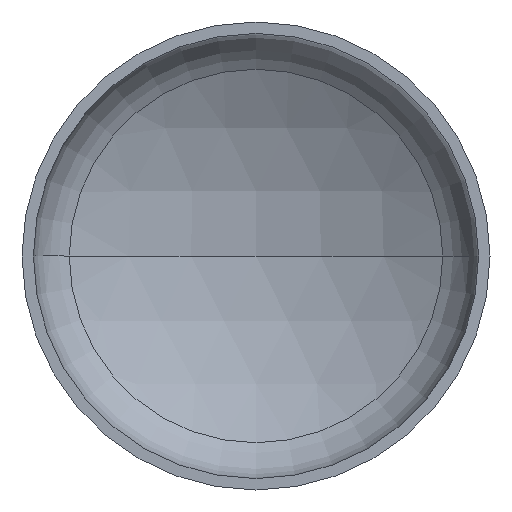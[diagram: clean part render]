
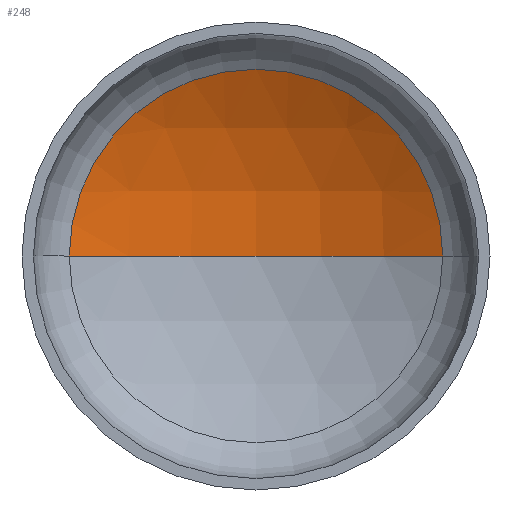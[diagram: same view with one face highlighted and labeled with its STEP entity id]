
A CAD part, front view. The second image highlights one B-rep face of the part: STEP entity #248.
In plain terms, the highlighted spherical face has radius 1440 mm.
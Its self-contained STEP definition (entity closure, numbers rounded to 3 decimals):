
#7 = VERTEX_POINT ( 'NONE', #208 ) ;
#34 = AXIS2_PLACEMENT_3D ( 'NONE', #185, #215, #217 ) ;
#40 = AXIS2_PLACEMENT_3D ( 'NONE', #282, #82, #298 ) ;
#41 = AXIS2_PLACEMENT_3D ( 'NONE', #370, #241, #395 ) ;
#46 = AXIS2_PLACEMENT_3D ( 'NONE', #136, #322, #183 ) ;
#55 = VERTEX_POINT ( 'NONE', #207 ) ;
#62 = ORIENTED_EDGE ( 'NONE', *, *, #218, .T. ) ;
#76 = ORIENTED_EDGE ( 'NONE', *, *, #224, .F. ) ;
#82 = DIRECTION ( 'NONE',  ( 0., 0., 1. ) ) ;
#115 = VERTEX_POINT ( 'NONE', #343 ) ;
#136 = CARTESIAN_POINT ( 'NONE',  ( 0., 378.361, 0. ) ) ;
#148 = EDGE_LOOP ( 'NONE', ( #76, #62, #328 ) ) ;
#183 = DIRECTION ( 'NONE',  ( 1., 0., 0. ) ) ;
#185 = CARTESIAN_POINT ( 'NONE',  ( 0., -869.784, 0. ) ) ;
#204 = EDGE_CURVE ( 'NONE', #55, #115, #408, .T. ) ;
#207 = CARTESIAN_POINT ( 'NONE',  ( 718.146, 378.361, 0. ) ) ;
#208 = CARTESIAN_POINT ( 'NONE',  ( 0., 570.216, 0. ) ) ;
#215 = DIRECTION ( 'NONE',  ( 0., 0., -1. ) ) ;
#217 = DIRECTION ( 'NONE',  ( -1., 0., 0. ) ) ;
#218 = EDGE_CURVE ( 'NONE', #7, #55, #356, .T. ) ;
#224 = EDGE_CURVE ( 'NONE', #7, #115, #347, .T. ) ;
#241 = DIRECTION ( 'NONE',  ( 0., 0., -1. ) ) ;
#248 = ADVANCED_FACE ( 'NONE', ( #288 ), #405, .F. ) ;
#282 = CARTESIAN_POINT ( 'NONE',  ( 0., -869.784, 0. ) ) ;
#288 = FACE_OUTER_BOUND ( 'NONE', #148, .T. ) ;
#298 = DIRECTION ( 'NONE',  ( 1., 0., 0. ) ) ;
#322 = DIRECTION ( 'NONE',  ( 0., -1., 0. ) ) ;
#328 = ORIENTED_EDGE ( 'NONE', *, *, #204, .T. ) ;
#343 = CARTESIAN_POINT ( 'NONE',  ( -718.146, 378.361, 0. ) ) ;
#347 = CIRCLE ( 'NONE', #40, 1440. ) ;
#356 = CIRCLE ( 'NONE', #41, 1440. ) ;
#370 = CARTESIAN_POINT ( 'NONE',  ( 0., -869.784, 0. ) ) ;
#395 = DIRECTION ( 'NONE',  ( -1., 0., 0. ) ) ;
#405 = SPHERICAL_SURFACE ( 'NONE', #34, 1440. ) ;
#408 = CIRCLE ( 'NONE', #46, 718.146 ) ;
